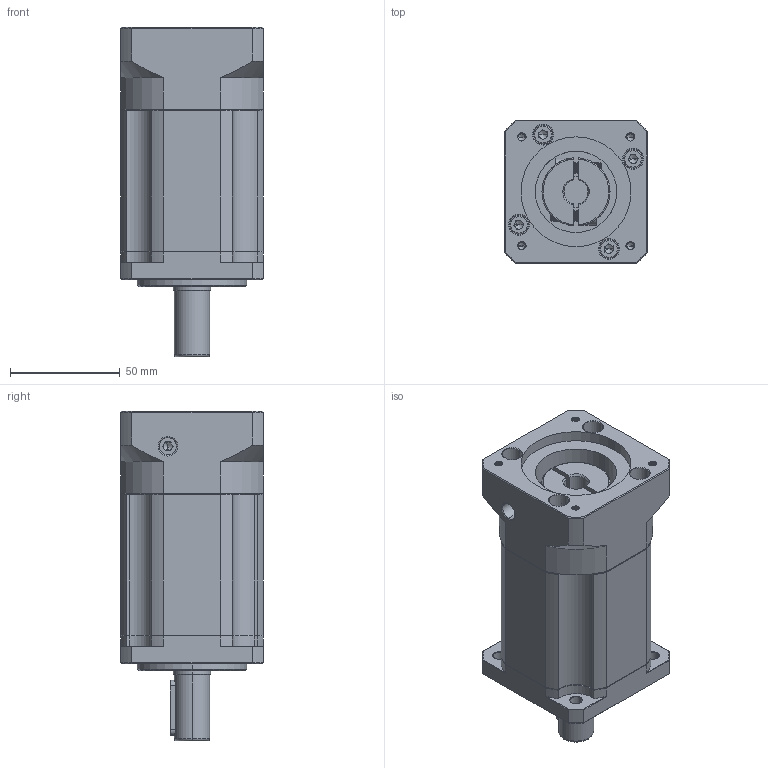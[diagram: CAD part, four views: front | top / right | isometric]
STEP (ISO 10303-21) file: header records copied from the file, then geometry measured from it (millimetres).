
FILE_DESCRIPTION (( 'STEP AP214' ), '1' );
FILE_NAME ('ZB060-D16-L3-P2-11-50-70-M4.step', '2023-08-16T07:07:25', ( '' ), ( '' ), 'SwSTEP 2.0', 'SolidWorks 2016', '' );
FILE_SCHEMA (( 'AUTOMOTIVE_DESIGN' ));
Length unit declared in the file: millimetre
Products named in the file (1): ZB060-D16-L3-P2-11-50-70-M4
Bounding box: 65 x 65 x 150 mm (x, y, z)
Volume: 391678.8 mm3; surface area: 62694.1 mm2
Topology: 6 solids, 6 shells, 2152 faces, 5796 edges, 3732 vertices
Faces by surface type: plane 1059, bspline 397, cylinder 381, cone 281, torus 34
Entity records: 114760 total; most frequent: CARTESIAN_POINT 40209, ORIENTED_EDGE 11532, DIRECTION 9080, EDGE_CURVE 5766, VERTEX_POINT 3732, LINE 3634, VECTOR 3634, AXIS2_PLACEMENT_3D 2723
